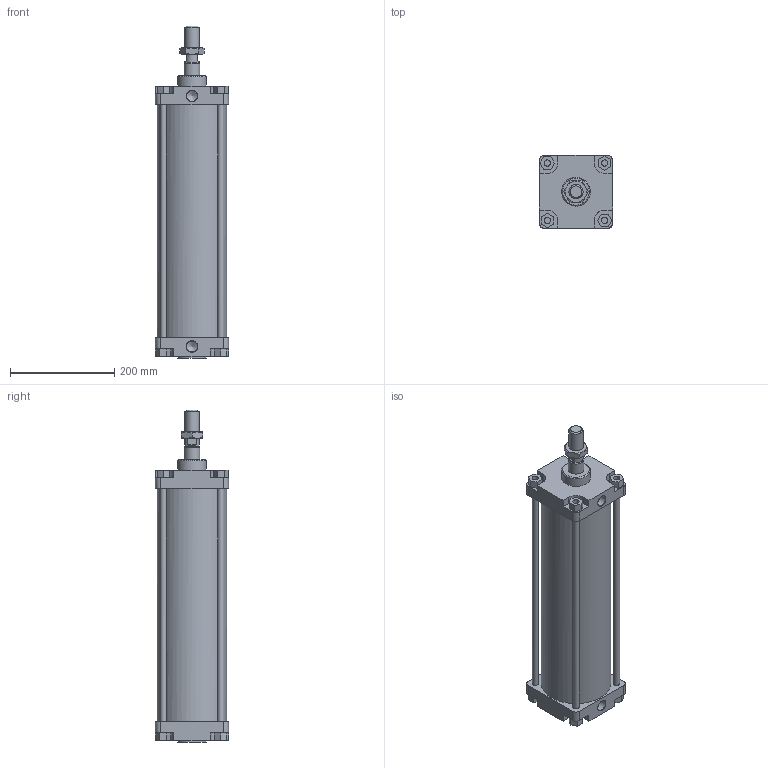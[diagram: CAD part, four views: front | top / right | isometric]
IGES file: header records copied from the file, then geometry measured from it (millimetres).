
Global section: file name: 1305_125_0350_01A; native system: Autodesk Inventor 2014; preprocessor: unknown; author: A. Manieri; date: 20161124.143313; units: millimetre
Bounding box: 140 x 140 x 636 mm (x, y, z)
Volume: 3762199.6 mm3; surface area: 691781 mm2
Topology: 9 solids, 9 shells, 175 faces, 440 edges, 295 vertices
Faces by surface type: bspline 175
